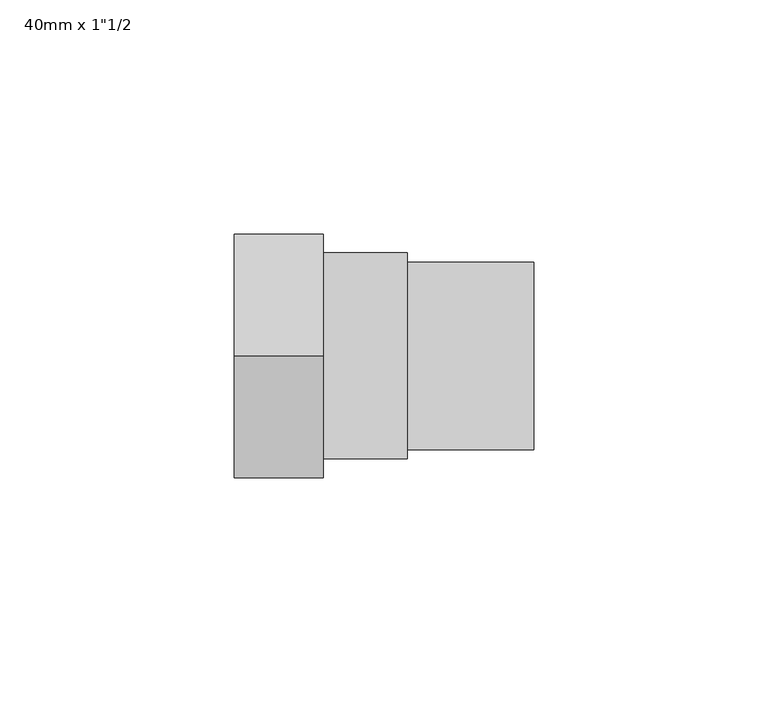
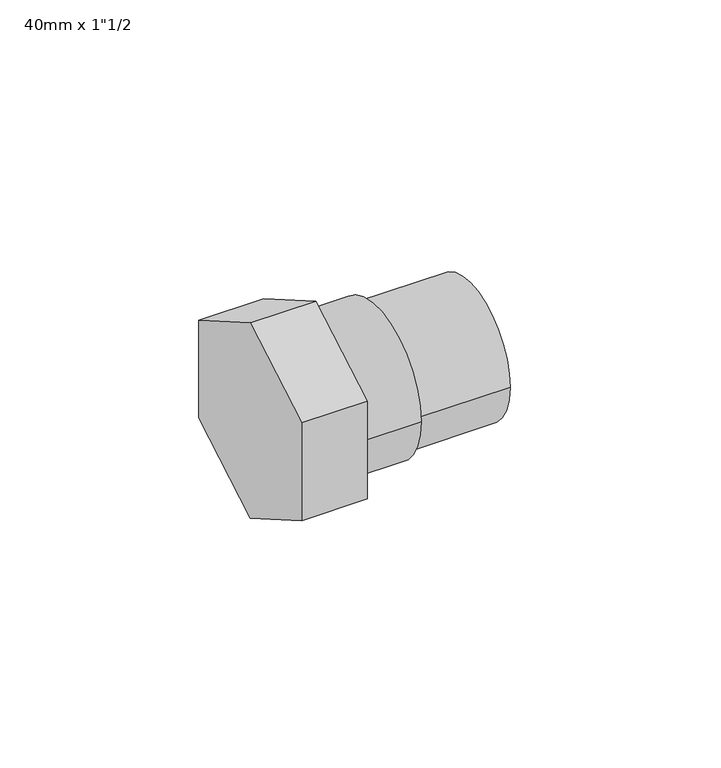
"""IFC4 building model written with IfcOpenShell, lengths in millimetres: pipe fitting geometry."""

from ifc_helpers import new_model, si_unit, point, frame, origin, origin_2d, place, context, project, spatial, polyline, circle_curve, trimmed, segment, composite_curve, outline, extrude, source, transform, mapped, element, save


def pipe_fitting_8f990732(model_context):
    return source(origin(), model_context, "Body", "SweptSolid", [
        extrude(outline(composite_curve([segment(trimmed(circle_curve(origin_2d(), 22.0), [point((22.0, 0.0))], [point((-22.0, 0.0))], False, "CARTESIAN"), True, "CONTINUOUS"), segment(trimmed(circle_curve(origin_2d(), 22.0), [point((-22.0, 0.0))], [point((22.0, 0.0))], False, "CARTESIAN"), True, "CONTINUOUS")], self_intersect=False)), frame((19.0, 0.0, 0.0), z_axis=(1.0, 0.0, 0.0), x_axis=(0.0, 1.0, 0.0)), (0.0, 0.0, 1.0), 18.0),
        extrude(outline(composite_curve([segment(trimmed(circle_curve(origin_2d(), 20.0), [point((20.0, 0.0))], [point((-20.0, 0.0))], False, "CARTESIAN"), True, "CONTINUOUS"), segment(trimmed(circle_curve(origin_2d(), 20.0), [point((-20.0, 0.0))], [point((20.0, 0.0))], False, "CARTESIAN"), True, "CONTINUOUS")], self_intersect=False)), frame((37.0, 0.0, 0.0), z_axis=(1.0, 0.0, 0.0), x_axis=(0.0, 1.0, 0.0)), (0.0, 0.0, 1.0), 27.0),
        extrude(outline(polyline([(0.0, 30.022214), (26.0, 15.011107), (26.0, -15.011107), (0.0, -30.022214), (-26.0, -15.011107), (-26.0, 15.011107), (0.0, 30.022214)])), frame((0.0, 0.0, 0.0), z_axis=(1.0, 0.0, 0.0), x_axis=(0.0, 1.0, 0.0)), (0.0, 0.0, 1.0), 19.0),
    ])


if __name__ == "__main__":
    model = new_model("IFC4")
    model_context = context("Model", 3, world=origin())
    ifc_project = project(units=[si_unit("LENGTHUNIT", "METRE", prefix="MILLI")], contexts=[model_context])
    site = spatial("IfcSite", under=ifc_project)
    building = spatial("IfcBuilding", under=site)
    placement = place(None, origin())
    pipe_fitting_shape = pipe_fitting_8f990732(model_context)
    element("IfcPipeFitting", 1, ObjectType="PipeFitting_HTA_CPVC_TapConnectorsWithBrassNuts : 40mm x 1\"1/2", at=placement, inside=building, context=model_context, shape_type="MappedRepresentation", body=[
        mapped(pipe_fitting_shape, transform((0.0, 0.0, 0.0), x_axis=(1.0, 0.0, 0.0), y_axis=(0.0, 1.0, 0.0), z_axis=(0.0, 0.0, 1.0))),
    ])
    save(model, "model.ifc")
